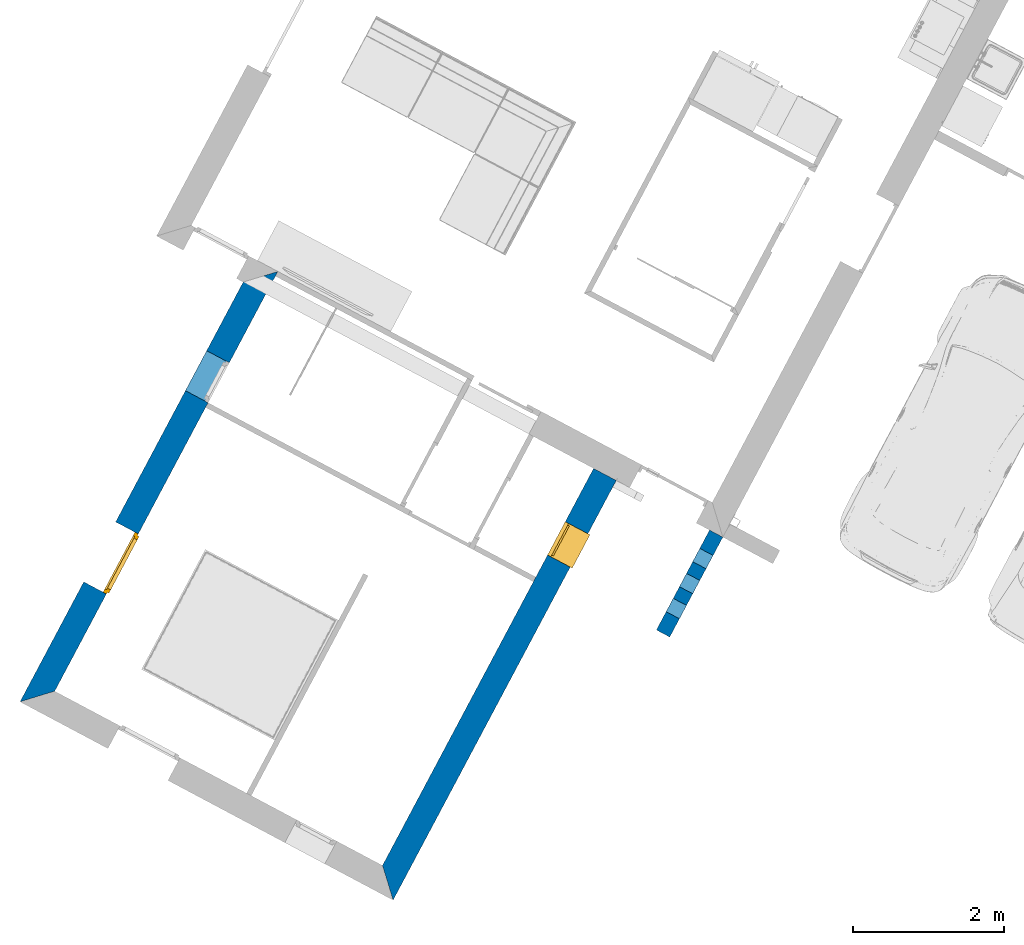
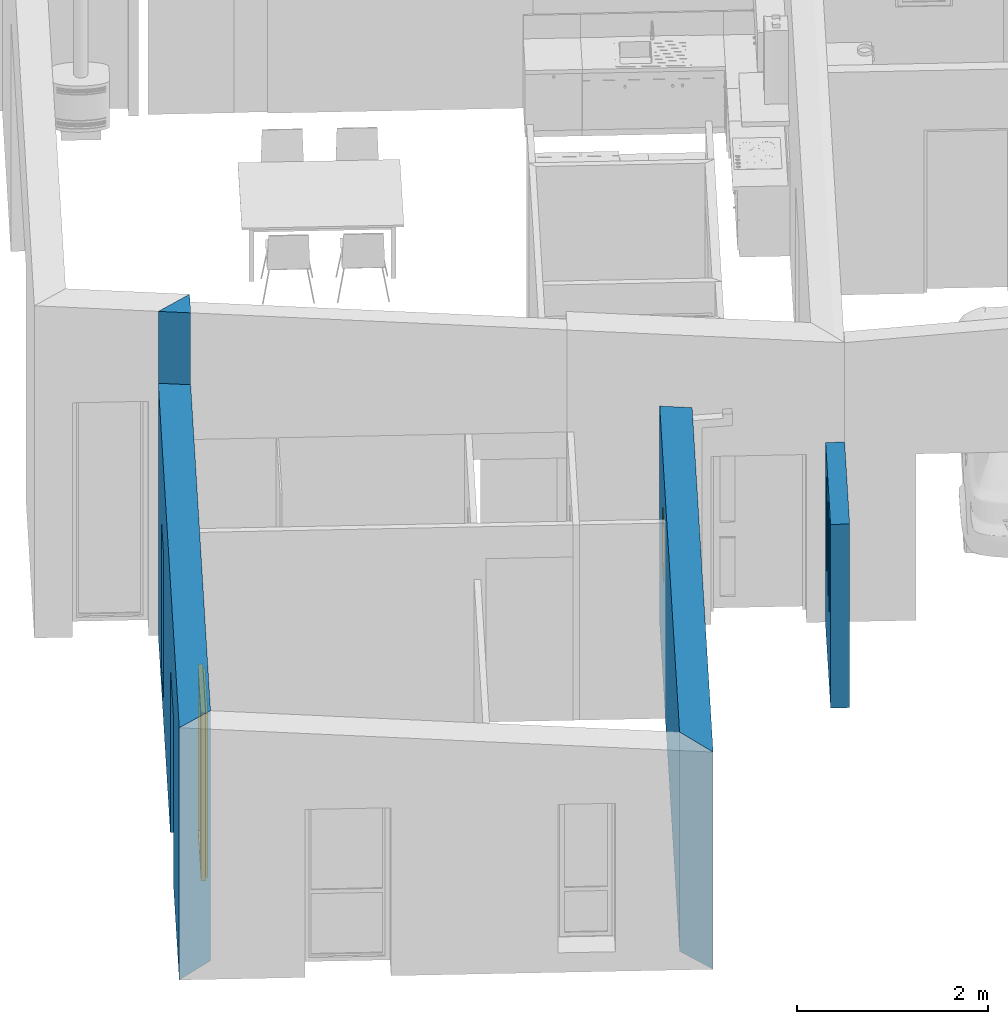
# One storey, part 2 of 27: 3 walls, 2 windows, 6 openings.
"""IFC2X3 building model written with IfcOpenShell, lengths in metres."""

from ifc_helpers import new_model, entity, si_unit, converted_unit, derived_unit, money_unit, direction, frame, origin_with_axes, origin_2d_with_axis, place, context, subcontext, project, spatial, polyline, rectangle, outline, extrude, clip, bounded_halfspace, open_shell, faceted_brep, surface_model, source, transform, mapped, material, layer, layer_set, layer_usage, type_object, element, fill, save


model = new_model("IFC2X3")

# Units and contexts
model_context = context("Model", 3, precision=1e-05, world=origin_with_axes(), true_north=direction((0.0, 1.0)))
body_context = subcontext(model_context, "Body", "Model", "MODEL_VIEW")
ifc_project = project(units=[si_unit("LENGTHUNIT", "METRE"), si_unit("AREAUNIT", "SQUARE_METRE"), si_unit("VOLUMEUNIT", "CUBIC_METRE"), converted_unit("PLANEANGLEUNIT", "DEGREE", entity("IfcPlaneAngleMeasure", 0.0174532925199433), si_unit("PLANEANGLEUNIT", "RADIAN"), dimensions=[0, 0, 0, 0, 0, 0, 0]), money_unit("CHF"), converted_unit("TIMEUNIT", "Year", entity("IfcTimeMeasure", 31557600.0), si_unit("TIMEUNIT", "SECOND"), dimensions=[0, 0, 1, 0, 0, 0, 0]), si_unit("MASSUNIT", "GRAM", prefix="KILO"), si_unit("THERMODYNAMICTEMPERATUREUNIT", "DEGREE_CELSIUS"), si_unit("LUMINOUSINTENSITYUNIT", "LUMEN"), si_unit("ENERGYUNIT", "JOULE", prefix="MEGA"), derived_unit("THERMALCONDUCTANCEUNIT", [(si_unit("POWERUNIT", "WATT"), 1), (si_unit("LENGTHUNIT", "METRE"), -1), (si_unit("THERMODYNAMICTEMPERATUREUNIT", "KELVIN"), -1)]), derived_unit("SPECIFICHEATCAPACITYUNIT", [(si_unit("ENERGYUNIT", "JOULE"), 1), (si_unit("MASSUNIT", "GRAM", prefix="KILO"), -1), (si_unit("THERMODYNAMICTEMPERATUREUNIT", "KELVIN"), -1)]), derived_unit("MASSDENSITYUNIT", [(si_unit("MASSUNIT", "GRAM", prefix="KILO"), 1), (si_unit("VOLUMEUNIT", "CUBIC_METRE"), -1)])], contexts=[model_context])

# Site, building, storey
site_placement = place(None, frame((0.0, 0.0, 0.0), z_axis=(0.0, 0.0, 1.0), x_axis=(-0.4694715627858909, -0.8829475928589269, 0.0)))
site = spatial("IfcSite", under=ifc_project, at=site_placement, Name="Site", CompositionType="ELEMENT")
building_placement = place(site_placement, origin_with_axes())
building = spatial("IfcBuilding", under=site, at=building_placement, Name="Bâtiment", CompositionType="ELEMENT")
storey_placement = place(building_placement, origin_with_axes())
storey = spatial("IfcBuildingStorey", under=building, at=storey_placement, Name="RDC", CompositionType="ELEMENT", Elevation=0.0)

# Wall, openings, window
ifc_material_1 = material(Name="Maçonnerie 290464332")
ifc_layer_1 = layer(ifc_material_1, 0.2, ventilated="UNKNOWN")
ifc_material_2 = material(Name="Isolation 272048125")
ifc_layer_2 = layer(ifc_material_2, 0.14, ventilated="UNKNOWN")
ifc_layer_set_1 = layer_set([ifc_layer_1, ifc_layer_2], Name="MUR EXT 34 0024849982")
ifc_layer_usage_1 = layer_usage(ifc_layer_set_1, "AXIS2", "NEGATIVE", 0.0)
wall_type_1 = type_object("IfcWallType", Name="MUR EXT 34 0024849982 340", PredefinedType="NOTDEFINED")
wall_1_placement = place(storey_placement, frame((149.8295710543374, -835.89459910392, 0.0), z_axis=(0.0, 0.0, 1.0), x_axis=(-1.0, 0.0, 0.0)))
wall_1 = element("IfcWallStandardCase", 1, at=wall_1_placement, inside=storey, type_object=wall_type_1, material=ifc_layer_usage_1, Name="Mur-394", context=body_context, shape_type="Clipping", body=[
    clip(clip(clip(extrude(outline(polyline([(0.3400000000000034, -0.3400000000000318), (6.640000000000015, -0.3400000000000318), (6.300000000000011, 0.0), (0.0, 0.0), (0.3400000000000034, -0.3400000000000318)])), origin_with_axes(), (0.0, 0.0, 1.0), 5.0), bounded_halfspace(frame((0.0, -0.2565977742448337, 3.207472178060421), z_axis=(0.0, 0.07974522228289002, -0.9968152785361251), x_axis=(0.0, 0.9968152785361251, 0.07974522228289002)), True, origin_with_axes(), polyline([(-0.1000099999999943, -0.3500000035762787), (6.300000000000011, -0.3500000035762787), (6.300000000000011, 0.01), (-0.1000099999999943, 0.01), (-0.1000099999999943, -0.3500000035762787)]))), bounded_halfspace(frame((0.0, -0.2565977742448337, 3.207472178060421), z_axis=(0.0, 0.07974522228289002, -0.9968152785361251), x_axis=(0.0, 0.9968152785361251, 0.07974522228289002)), True, origin_with_axes(), polyline([(-0.1000099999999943, -0.3500000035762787), (6.300000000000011, -0.3500000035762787), (6.300000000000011, 0.01), (-0.1000099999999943, 0.01), (-0.1000099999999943, -0.3500000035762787)]))), bounded_halfspace(frame((0.0, -0.32972972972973, 4.121621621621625), z_axis=(0.0, 0.07974522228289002, -0.9968152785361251), x_axis=(0.0, 0.9968152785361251, 0.07974522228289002)), True, origin_with_axes(), polyline([(6.200000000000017, -0.3500000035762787), (16.24001000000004, -0.3500000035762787), (16.24001000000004, 0.01), (6.200000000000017, 0.01), (6.200000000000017, -0.3500000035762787)]))),
])
opening_1_placement = place(wall_1_placement, frame((4.9700049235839, 0.0, 0.25), z_axis=(0.0, 0.0, 1.0), x_axis=(1.0, 0.0, 0.0)))
element("IfcOpeningElement", 2, at=opening_1_placement, cuts=wall_1, Name="Fen-156", context=body_context, shape_type="SweptSolid", body=[
    extrude(rectangle(XDim=0.6000000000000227, YDim=1.9, at=origin_2d_with_axis()), frame((0.0, 0.3400000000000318, 0.95), z_axis=(0.0, 1.0, 0.0), x_axis=(1.0, 0.0, 0.0)), (0.0, 0.0, -1.0), 1.02),
])
opening_2_placement = place(wall_1_placement, frame((2.250000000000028, 0.0, 0.0), z_axis=(0.0, 0.0, 1.0), x_axis=(1.0, 0.0, 0.0)))
opening_2 = element("IfcOpeningElement", 3, at=opening_2_placement, cuts=wall_1, Name="Fen-155", context=body_context, shape_type="SweptSolid", body=[
    extrude(rectangle(XDim=0.8999999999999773, YDim=2.15, at=origin_2d_with_axis()), frame((0.0, 0.3400000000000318, 1.075), z_axis=(0.0, -1.0, 0.0), x_axis=(1.0, 0.0, 0.0)), (0.0, 0.0, 1.0), 1.02),
])
window_style_1 = type_object("IfcWindowStyle", Name="Fen à carreaux 10", ConstructionType="NOTDEFINED", OperationType="SINGLE_PANEL", ParameterTakesPrecedence=False, Sizeable=False)
shared_shape_1 = source(origin_with_axes(), body_context, "Body", "SurfaceModel", [
    faceted_brep([(-0.425, -0.05, 2.1), (-0.425, -0.02500000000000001, 2.1), (-0.4, -0.02500000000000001, 2.1), (-0.4, 0.0, 2.1), (-0.45, 0.0, 2.1), (-0.45, -0.05, 2.1), (-0.425, -0.05, 0.05000000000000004), (-0.425, -0.02500000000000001, 0.05000000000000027), (-0.4, -0.02500000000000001, 0.05000000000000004), (-0.4, 0.0, 0.05000000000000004), (-0.45, 0.0, 0.05000000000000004), (-0.45, -0.05, 0.05000000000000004)], [[[0, 1, 2, 3, 4, 5]], [[1, 0, 6, 7]], [[8, 2, 1, 7]], [[2, 8, 9, 3]], [[3, 9, 10, 4]], [[5, 4, 10, 11]], [[6, 0, 5, 11]], [[7, 6, 11, 10, 9, 8]]]),
    faceted_brep([(0.4, -0.02500000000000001, 2.1), (0.425, -0.02500000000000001, 2.1), (0.425, -0.05, 2.1), (0.45, -0.05, 2.1), (0.45, 0.0, 2.1), (0.4, 0.0, 2.1), (0.4, -0.02500000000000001, 0.05000000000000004), (0.425, -0.02500000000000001, 0.05000000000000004), (0.425, -0.05, 0.05000000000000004), (0.45, -0.05, 0.05000000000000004), (0.45, 0.0, 0.05000000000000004), (0.4, 0.0, 0.05000000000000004)], [[[0, 1, 2, 3, 4, 5]], [[1, 0, 6, 7]], [[8, 2, 1, 7]], [[2, 8, 9, 3]], [[9, 10, 4, 3]], [[4, 10, 11, 5]], [[6, 0, 5, 11]], [[7, 6, 11, 10, 9, 8]]]),
    faceted_brep([(-0.425, -0.05, 2.1), (-0.425, -0.05, 2.125), (0.425, -0.05, 2.125), (0.425, -0.05, 2.1), (0.45, -0.05, 2.1), (0.45, -0.05, 2.15), (-0.45, -0.05, 2.15), (-0.45, -0.05, 2.1), (-0.425, -0.02500000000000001, 2.1), (-0.425, -0.02500000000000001, 2.125), (0.425, -0.02500000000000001, 2.125), (0.425, -0.02500000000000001, 2.1), (0.4, -0.02500000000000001, 2.1), (0.4, 0.0, 2.1), (0.45, 0.0, 2.1), (0.45, 0.0, 2.15), (-0.45, 0.0, 2.15), (-0.45, 0.0, 2.1), (-0.4, 0.0, 2.1), (-0.4, -0.02500000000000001, 2.1)], [[[0, 1, 2, 3, 4, 5, 6, 7]], [[1, 0, 8, 9]], [[2, 1, 9, 10]], [[3, 2, 10, 11]], [[11, 12, 13, 14, 4, 3]], [[4, 14, 15, 5]], [[5, 15, 16, 6]], [[6, 16, 17, 7]], [[8, 0, 7, 17, 18, 19]], [[12, 11, 10, 9, 8, 19]], [[12, 19, 18, 13]], [[18, 17, 16, 15, 14, 13]]]),
    faceted_brep([(0.4, -0.02500000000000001, 0.05000000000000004), (0.425, -0.02500000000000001, 0.05000000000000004), (0.425, -0.05, 0.05000000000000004), (0.45, -0.05, 0.05000000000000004), (0.45, 0.0, 0.05000000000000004), (0.4, 0.0, 0.05000000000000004), (-0.4, -0.02500000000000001, 0.05000000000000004), (-0.425, -0.02500000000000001, 0.05000000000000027), (-0.425, -0.02500000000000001, 0.02499999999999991), (0.425, -0.02500000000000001, 0.02499999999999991), (0.425, -0.05, 0.02499999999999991), (-0.425, -0.05, 0.02499999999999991), (-0.425, -0.05, 0.05000000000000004), (-0.45, -0.05, 0.05000000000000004), (-0.45, -0.05, 0.0), (0.45, -0.05, 0.0), (0.45, 0.0, 0.0), (-0.45, 0.0, 0.0), (-0.45, 0.0, 0.05000000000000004), (-0.4, 0.0, 0.05000000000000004)], [[[0, 1, 2, 3, 4, 5]], [[1, 0, 6, 7, 8, 9]], [[10, 2, 1, 9]], [[11, 12, 13, 14, 15, 3, 2, 10]], [[15, 16, 4, 3]], [[16, 17, 18, 19, 5, 4]], [[6, 0, 5, 19]], [[7, 6, 19, 18, 13, 12]], [[7, 12, 11, 8]], [[11, 10, 9, 8]], [[13, 18, 17, 14]], [[14, 17, 16, 15]]]),
    surface_model("IfcShellBasedSurfaceModel", [(-0.375, -0.04, 0.07500000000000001), (-0.375, -0.04, 0.8500000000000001), (0.375, -0.04, 0.8500000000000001), (0.375, -0.04, 0.07500000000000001)], [open_shell([[[0, 1, 2, 3]]])]),
    surface_model("IfcShellBasedSurfaceModel", [(-0.375, -0.06, 0.07500000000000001), (0.375, -0.06, 0.07500000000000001), (0.375, -0.06, 0.8500000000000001), (-0.375, -0.06, 0.8500000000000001)], [open_shell([[[0, 1, 2, 3]]])]),
    surface_model("IfcShellBasedSurfaceModel", [(-0.375, -0.04, 0.9), (-0.375, -0.04, 2.075), (0.375, -0.04, 2.075), (0.375, -0.04, 0.9)], [open_shell([[[0, 1, 2, 3]]])]),
    surface_model("IfcShellBasedSurfaceModel", [(-0.375, -0.06, 0.9), (0.375, -0.06, 0.9), (0.375, -0.06, 2.075), (-0.375, -0.06, 2.075)], [open_shell([[[0, 1, 2, 3]]])]),
    faceted_brep([(-0.375, -0.02500000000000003, 0.07500000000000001), (-0.375, -0.02500000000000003, 2.075), (-0.375, -0.07500000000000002, 2.075), (-0.375, -0.07500000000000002, 0.07500000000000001), (-0.425, -0.02500000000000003, 0.07500000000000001), (-0.425, -0.02500000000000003, 2.075), (-0.425, -0.07500000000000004, 2.075), (-0.425, -0.07500000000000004, 0.07500000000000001)], [[[0, 1, 2, 3]], [[0, 4, 5, 1]], [[1, 5, 6, 2]], [[3, 2, 6, 7]], [[4, 0, 3, 7]], [[5, 4, 7, 6]]]),
    faceted_brep([(0.425, -0.02499999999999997, 0.07500000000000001), (0.425, -0.02499999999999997, 2.075), (0.425, -0.07499999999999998, 2.075), (0.425, -0.07499999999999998, 0.07500000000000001), (0.375, -0.02499999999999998, 0.07500000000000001), (0.375, -0.02499999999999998, 2.075), (0.375, -0.07499999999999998, 2.075), (0.375, -0.07499999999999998, 0.07500000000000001)], [[[0, 1, 2, 3]], [[0, 4, 5, 1]], [[1, 5, 6, 2]], [[3, 2, 6, 7]], [[4, 0, 3, 7]], [[5, 4, 7, 6]]]),
    faceted_brep([(-0.375, -0.02500000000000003, 0.9), (-0.375, -0.02500000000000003, 0.85), (-0.375, -0.07500000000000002, 0.85), (-0.375, -0.07500000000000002, 0.9), (0.375, -0.02499999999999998, 0.9), (0.375, -0.02499999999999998, 0.85), (0.375, -0.07499999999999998, 0.85), (0.375, -0.07499999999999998, 0.9)], [[[0, 1, 2, 3]], [[0, 4, 5, 1]], [[1, 5, 6, 2]], [[3, 2, 6, 7]], [[4, 0, 3, 7]], [[5, 4, 7, 6]]]),
    faceted_brep([(-0.425, -0.02500000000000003, 0.025), (0.425, -0.02499999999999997, 0.025), (0.425, -0.07499999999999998, 0.025), (-0.425, -0.07500000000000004, 0.025), (-0.425, -0.02500000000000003, 0.07500000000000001), (-0.375, -0.02500000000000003, 0.07500000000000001), (0.375, -0.02499999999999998, 0.07500000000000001), (0.425, -0.02499999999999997, 0.07500000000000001), (0.425, -0.07499999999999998, 0.07500000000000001), (0.375, -0.07499999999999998, 0.07500000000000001), (-0.375, -0.07500000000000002, 0.07500000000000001), (-0.425, -0.07500000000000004, 0.07500000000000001)], [[[0, 1, 2, 3]], [[0, 4, 5, 6, 7, 1]], [[1, 7, 8, 2]], [[3, 2, 8, 9, 10, 11]], [[4, 0, 3, 11]], [[5, 4, 11, 10]], [[6, 5, 10, 9]], [[7, 6, 9, 8]]]),
    faceted_brep([(-0.425, -0.02500000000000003, 2.075), (-0.375, -0.02500000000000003, 2.075), (-0.375, -0.07500000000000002, 2.075), (-0.425, -0.07500000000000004, 2.075), (-0.425, -0.02500000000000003, 2.125), (0.425, -0.02499999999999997, 2.125), (0.425, -0.02499999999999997, 2.075), (0.375, -0.02499999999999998, 2.075), (0.375, -0.07499999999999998, 2.075), (0.425, -0.07499999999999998, 2.075), (0.425, -0.07499999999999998, 2.125), (-0.425, -0.07500000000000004, 2.125)], [[[0, 1, 2, 3]], [[0, 4, 5, 6, 7, 1]], [[1, 7, 8, 2]], [[3, 2, 8, 9, 10, 11]], [[4, 0, 3, 11]], [[5, 4, 11, 10]], [[6, 5, 10, 9]], [[7, 6, 9, 8]]]),
])
window_1_placement = place(opening_2_placement, frame((-0.4499999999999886, 0.0, 0.0), z_axis=(0.0, 0.0, 1.0), x_axis=(1.0, 0.0, 0.0)))
window_1 = element("IfcWindow", 4, at=window_1_placement, inside=storey, type_object=window_style_1, Name="Fen-155", OverallHeight=2.15, OverallWidth=0.9, context=body_context, shape_type="MappedRepresentation", body=[
    mapped(shared_shape_1, transform((0.4499999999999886, -0.2900000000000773, 0.0))),
])
fill(opening_2, window_1)

# Wall, opening, window
ifc_layer_usage_2 = layer_usage(ifc_layer_set_1, "AXIS2", "NEGATIVE", 0.0)
wall_2_placement = place(storey_placement, frame((143.5295710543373, -830.29459910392, 0.0), z_axis=(0.0, 0.0, 1.0), x_axis=(1.0, 0.0, 0.0)))
wall_2 = element("IfcWallStandardCase", 5, at=wall_2_placement, inside=storey, type_object=wall_type_1, material=ifc_layer_usage_2, Name="Mur-393", context=body_context, shape_type="Clipping", body=[
    clip(extrude(outline(polyline([(0.0, -0.3400000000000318), (5.960000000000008, -0.3400000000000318), (6.300000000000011, 0.0), (0.0, 0.0), (0.0, -0.3400000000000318)])), origin_with_axes(), (0.0, 0.0, 1.0), 5.0), bounded_halfspace(frame((0.0, 0.220985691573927, 2.762321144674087), z_axis=(0.0, -0.07974522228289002, -0.9968152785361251), x_axis=(0.0, 0.9968152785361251, -0.07974522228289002)), True, origin_with_axes(), polyline([(0.0, -0.3500000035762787), (6.400010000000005, -0.3500000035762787), (6.400010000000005, 0.01), (0.0, 0.01), (0.0, -0.3500000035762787)]))),
])
opening_3_placement = place(wall_2_placement, frame((1.049995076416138, 0.0, 1.4), z_axis=(0.0, 0.0, 1.0), x_axis=(1.0, 0.0, 0.0)))
opening_3 = element("IfcOpeningElement", 6, at=opening_3_placement, cuts=wall_2, Name="Fen-157", context=body_context, shape_type="SweptSolid", body=[
    extrude(rectangle(XDim=0.5, YDim=0.7500000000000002, at=origin_2d_with_axis()), frame((0.0, 0.3400000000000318, 0.375), z_axis=(0.0, 1.0, 0.0), x_axis=(1.0, 0.0, 0.0)), (0.0, 0.0, -1.0), 1.02),
])
window_style_2 = type_object("IfcWindowStyle", Name="Fen châssis simple 10", ConstructionType="NOTDEFINED", OperationType="SINGLE_PANEL", ParameterTakesPrecedence=False, Sizeable=False)
shared_shape_2 = source(origin_with_axes(), body_context, "Body", "SurfaceModel", [
    faceted_brep([(-0.25, -0.05, 0.0), (-0.25, -0.34, 0.0), (-0.25, -0.34, 0.009801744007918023), (-0.25, -0.05, 0.02499999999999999), (0.25, -0.05, 0.0), (0.25, -0.34, 0.0), (0.25, -0.37, 0.0), (-0.25, -0.37, 0.0), (-0.25, -0.37, 0.008229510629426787), (0.25, -0.37, 0.008229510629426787), (0.25, -0.34, 0.009801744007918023), (0.25, -0.05, 0.02499999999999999)], [[[0, 1, 2, 3]], [[0, 4, 5, 6, 7, 1]], [[1, 7, 8, 2]], [[3, 2, 8, 9, 10, 11]], [[4, 0, 3, 11]], [[5, 4, 11, 10]], [[6, 5, 10, 9]], [[7, 6, 9, 8]]]),
    faceted_brep([(0.2, -0.05, 0.7), (0.25, -0.05, 0.7), (0.25, 0.0, 0.7), (0.2, 0.0, 0.7), (0.2, -0.05, 0.04999999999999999), (0.25, -0.05, 0.04999999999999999), (0.25, 0.0, 0.04999999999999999), (0.2, 0.0, 0.04999999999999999)], [[[0, 1, 2, 3]], [[4, 5, 1, 0]], [[1, 5, 6, 2]], [[2, 6, 7, 3]], [[4, 0, 3, 7]], [[5, 4, 7, 6]]]),
    faceted_brep([(-0.2, -0.05, 0.04999999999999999), (-0.25, -0.05, 0.04999999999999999), (-0.25, 0.0, 0.04999999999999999), (-0.2, 0.0, 0.04999999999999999), (-0.2, -0.05, 0.7), (-0.25, -0.05, 0.7), (-0.25, 0.0, 0.7), (-0.2, 0.0, 0.7)], [[[0, 1, 2, 3]], [[4, 5, 1, 0]], [[1, 5, 6, 2]], [[2, 6, 7, 3]], [[4, 0, 3, 7]], [[5, 4, 7, 6]]]),
    faceted_brep([(-0.2, -0.05, 0.7), (-0.25, -0.05, 0.7), (-0.25, 0.0, 0.7), (-0.2, 0.0, 0.7), (0.2, -0.05, 0.7), (0.25, -0.05, 0.7), (0.25, -0.05, 0.75), (-0.25, -0.05, 0.75), (-0.25, 0.0, 0.75), (0.25, 0.0, 0.75), (0.25, 0.0, 0.7), (0.2, 0.0, 0.7)], [[[0, 1, 2, 3]], [[4, 5, 6, 7, 1, 0]], [[1, 7, 8, 2]], [[2, 8, 9, 10, 11, 3]], [[4, 0, 3, 11]], [[5, 4, 11, 10]], [[6, 5, 10, 9]], [[7, 6, 9, 8]]]),
    faceted_brep([(0.2, -0.05, 0.04999999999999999), (0.25, -0.05, 0.04999999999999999), (0.25, 0.0, 0.04999999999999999), (0.2, 0.0, 0.04999999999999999), (-0.2, -0.05, 0.04999999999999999), (-0.25, -0.05, 0.04999999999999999), (-0.25, -0.05, 0.0), (0.25, -0.05, 0.0), (0.25, 0.0, 0.0), (-0.25, 0.0, 0.0), (-0.25, 0.0, 0.04999999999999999), (-0.2, 0.0, 0.04999999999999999)], [[[0, 1, 2, 3]], [[4, 5, 6, 7, 1, 0]], [[1, 7, 8, 2]], [[2, 8, 9, 10, 11, 3]], [[4, 0, 3, 11]], [[5, 4, 11, 10]], [[6, 5, 10, 9]], [[7, 6, 9, 8]]]),
    faceted_brep([(-0.175, -0.02500000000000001, 0.07500000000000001), (-0.175, -0.02500000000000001, 0.6749999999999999), (-0.175, -0.07500000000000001, 0.6749999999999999), (-0.175, -0.07500000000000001, 0.07500000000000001), (-0.225, -0.02500000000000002, 0.07500000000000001), (-0.225, -0.02500000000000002, 0.6749999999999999), (-0.225, -0.07500000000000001, 0.6749999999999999), (-0.225, -0.07500000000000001, 0.07500000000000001)], [[[0, 1, 2, 3]], [[0, 4, 5, 1]], [[1, 5, 6, 2]], [[3, 2, 6, 7]], [[4, 0, 3, 7]], [[5, 4, 7, 6]]]),
    faceted_brep([(0.225, -0.02499999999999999, 0.07500000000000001), (0.225, -0.02499999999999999, 0.6749999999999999), (0.225, -0.07499999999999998, 0.6749999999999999), (0.225, -0.07499999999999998, 0.07500000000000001), (0.175, -0.02499999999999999, 0.07500000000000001), (0.175, -0.02499999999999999, 0.6749999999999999), (0.175, -0.07499999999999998, 0.6749999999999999), (0.175, -0.07499999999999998, 0.07500000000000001)], [[[0, 1, 2, 3]], [[0, 4, 5, 1]], [[1, 5, 6, 2]], [[3, 2, 6, 7]], [[4, 0, 3, 7]], [[5, 4, 7, 6]]]),
    faceted_brep([(0.225, -0.02499999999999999, 0.025), (0.225, -0.02499999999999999, 0.07500000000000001), (0.225, -0.07499999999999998, 0.07500000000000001), (0.225, -0.07499999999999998, 0.025), (-0.225, -0.02500000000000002, 0.025), (-0.225, -0.02500000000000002, 0.07500000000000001), (-0.175, -0.02500000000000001, 0.07500000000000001), (0.175, -0.02499999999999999, 0.07500000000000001), (0.175, -0.07499999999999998, 0.07500000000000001), (-0.175, -0.07500000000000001, 0.07500000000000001), (-0.225, -0.07500000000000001, 0.07500000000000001), (-0.225, -0.07500000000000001, 0.025)], [[[0, 1, 2, 3]], [[0, 4, 5, 6, 7, 1]], [[1, 7, 8, 2]], [[3, 2, 8, 9, 10, 11]], [[4, 0, 3, 11]], [[5, 4, 11, 10]], [[6, 5, 10, 9]], [[7, 6, 9, 8]]]),
    faceted_brep([(-0.225, -0.02500000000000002, 0.725), (-0.225, -0.02500000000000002, 0.6749999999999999), (-0.225, -0.07500000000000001, 0.6749999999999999), (-0.225, -0.07500000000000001, 0.725), (0.225, -0.02499999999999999, 0.725), (0.225, -0.02499999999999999, 0.6749999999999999), (0.175, -0.02499999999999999, 0.6749999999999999), (-0.175, -0.02500000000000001, 0.6749999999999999), (-0.175, -0.07500000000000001, 0.6749999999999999), (0.175, -0.07499999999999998, 0.6749999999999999), (0.225, -0.07499999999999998, 0.6749999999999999), (0.225, -0.07499999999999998, 0.725)], [[[0, 1, 2, 3]], [[0, 4, 5, 6, 7, 1]], [[1, 7, 8, 2]], [[3, 2, 8, 9, 10, 11]], [[4, 0, 3, 11]], [[5, 4, 11, 10]], [[6, 5, 10, 9]], [[7, 6, 9, 8]]]),
    surface_model("IfcShellBasedSurfaceModel", [(-0.175, -0.04, 0.07500000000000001), (-0.175, -0.04, 0.6749999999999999), (0.175, -0.04, 0.6749999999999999), (0.175, -0.04, 0.07500000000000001)], [open_shell([[[0, 1, 2, 3]]])]),
    surface_model("IfcShellBasedSurfaceModel", [(-0.175, -0.06, 0.07500000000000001), (0.175, -0.06, 0.07500000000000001), (0.175, -0.06, 0.6749999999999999), (-0.175, -0.06, 0.6749999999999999)], [open_shell([[[0, 1, 2, 3]]])]),
])
window_2_placement = place(opening_3_placement, frame((0.2500000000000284, 0.0, 0.0), z_axis=(0.0, 0.0, 1.0), x_axis=(-1.0, 0.0, 0.0)))
window_2 = element("IfcWindow", 7, at=window_2_placement, inside=storey, type_object=window_style_2, Name="Fen-157", OverallHeight=0.75, OverallWidth=0.5, context=body_context, shape_type="MappedRepresentation", body=[
    mapped(shared_shape_2, transform((0.25, 0.3400000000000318, 0.0))),
])
fill(opening_3, window_2)

# Wall, openings
ifc_layer_3 = layer(ifc_material_1, 0.2, ventilated="UNKNOWN")
ifc_layer_set_2 = layer_set([ifc_layer_3], Name="MUR EXT 20 0024849982")
ifc_layer_usage_3 = layer_usage(ifc_layer_set_2, "AXIS2", "POSITIVE", 0.0)
wall_type_2 = type_object("IfcWallType", Name="MUR EXT 20 0024849982 200", PredefinedType="NOTDEFINED")
wall_3_placement = place(storey_placement, frame((143.5295710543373, -828.89459910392, -0.05), z_axis=(0.0, 0.0, 1.0), x_axis=(1.0, 0.0, 0.0)))
wall_3 = element("IfcWallStandardCase", 8, at=wall_3_placement, inside=storey, type_object=wall_type_2, material=ifc_layer_usage_3, Name="Mur-393", context=body_context, shape_type="SweptSolid", body=[
    extrude(outline(polyline([(0.0, 0.0), (1.5, 0.0), (1.5, 0.2000000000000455), (0.0, 0.2000000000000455), (0.0, 0.0)])), origin_with_axes(), (0.0, 0.0, 1.0), 2.35),
])
opening_4_placement = place(wall_3_placement, frame((0.375, 0.0, 0.9500000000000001), z_axis=(0.0, 0.0, 1.0), x_axis=(1.0, 0.0, 0.0)))
element("IfcOpeningElement", 9, at=opening_4_placement, cuts=wall_3, Name="Fen-156", context=body_context, shape_type="SweptSolid", body=[
    extrude(rectangle(XDim=0.1999999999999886, YDim=1.2, at=origin_2d_with_axis()), frame((0.0, 0.2000000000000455, 0.6), z_axis=(0.0, -1.0, 0.0), x_axis=(1.0, 0.0, 0.0)), (0.0, 0.0, 1.0), 0.6000000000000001),
])
opening_5_placement = place(wall_3_placement, frame((0.75, 0.0, 0.9500000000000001), z_axis=(0.0, 0.0, 1.0), x_axis=(1.0, 0.0, 0.0)))
element("IfcOpeningElement", 10, at=opening_5_placement, cuts=wall_3, Name="Fen-157", context=body_context, shape_type="SweptSolid", body=[
    extrude(rectangle(XDim=0.1999999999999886, YDim=1.2, at=origin_2d_with_axis()), frame((0.0, 0.2000000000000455, 0.6), z_axis=(0.0, 1.0, 0.0), x_axis=(-1.0, 0.0, 0.0)), (0.0, 0.0, -1.0), 0.6000000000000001),
])
opening_6_placement = place(wall_3_placement, frame((1.125, 0.0, 0.9500000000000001), z_axis=(0.0, 0.0, 1.0), x_axis=(1.0, 0.0, 0.0)))
element("IfcOpeningElement", 11, at=opening_6_placement, cuts=wall_3, Name="Fen-158", context=body_context, shape_type="SweptSolid", body=[
    extrude(rectangle(XDim=0.1999999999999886, YDim=1.2, at=origin_2d_with_axis()), frame((0.0, 0.2000000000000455, 0.6), z_axis=(0.0, 1.0, 0.0), x_axis=(-1.0, 0.0, 0.0)), (0.0, 0.0, -1.0), 0.6000000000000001),
])

save(model, "model.ifc")
